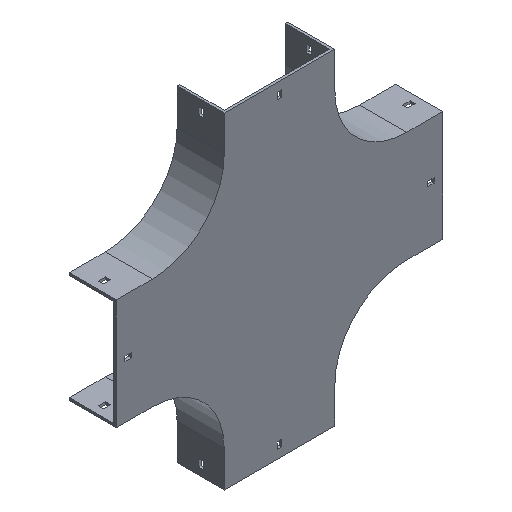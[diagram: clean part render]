
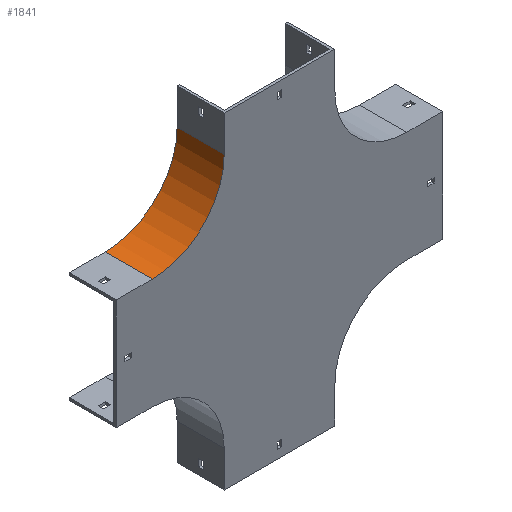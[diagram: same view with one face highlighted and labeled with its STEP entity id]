
A CAD part, isometric view. The second image highlights one B-rep face of the part: STEP entity #1841.
In plain terms, the highlighted cylindrical face has radius 100 mm (diameter 200 mm), a partial arc.
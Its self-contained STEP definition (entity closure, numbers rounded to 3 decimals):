
#44 = DIRECTION ( 'NONE',  ( 0., 0., -1. ) ) ;
#55 = DIRECTION ( 'NONE',  ( 0., -1., 0. ) ) ;
#79 = DIRECTION ( 'NONE',  ( 0., -1., 0. ) ) ;
#132 = CARTESIAN_POINT ( 'NONE',  ( -354., 65.5, -100. ) ) ;
#141 = CARTESIAN_POINT ( 'NONE',  ( -254., 0., 0. ) ) ;
#171 = CARTESIAN_POINT ( 'NONE',  ( -354., 65.5, -100. ) ) ;
#273 = CARTESIAN_POINT ( 'NONE',  ( -354., 0., 0. ) ) ;
#300 = DIRECTION ( 'NONE',  ( 0., -1., 0. ) ) ;
#457 = CARTESIAN_POINT ( 'NONE',  ( -354., 65.5, 0. ) ) ;
#659 = CIRCLE ( 'NONE', #2558, 100. ) ;
#759 = AXIS2_PLACEMENT_3D ( 'NONE', #1980, #79, #44 ) ;
#898 = DIRECTION ( 'NONE',  ( 0., 0., 1. ) ) ;
#934 = ORIENTED_EDGE ( 'NONE', *, *, #1812, .F. ) ;
#935 = EDGE_CURVE ( 'NONE', #1533, #2499, #1052, .T. ) ;
#956 = CARTESIAN_POINT ( 'NONE',  ( -354., 0., -100. ) ) ;
#1052 = LINE ( 'NONE', #1504, #2722 ) ;
#1124 = CYLINDRICAL_SURFACE ( 'NONE', #759, 100. ) ;
#1147 = EDGE_CURVE ( 'NONE', #2111, #2374, #1440, .T. ) ;
#1344 = FACE_OUTER_BOUND ( 'NONE', #1703, .T. ) ;
#1440 = LINE ( 'NONE', #171, #2726 ) ;
#1504 = CARTESIAN_POINT ( 'NONE',  ( -254., 65.5, 0. ) ) ;
#1533 = VERTEX_POINT ( 'NONE', #1786 ) ;
#1703 = EDGE_LOOP ( 'NONE', ( #2459, #1987, #934, #2202 ) ) ;
#1786 = CARTESIAN_POINT ( 'NONE',  ( -254., 65.5, 0. ) ) ;
#1812 = EDGE_CURVE ( 'NONE', #2111, #1533, #659, .T. ) ;
#1841 = ADVANCED_FACE ( 'NONE', ( #1344 ), #1124, .F. ) ;
#1912 = EDGE_CURVE ( 'NONE', #2374, #2499, #2337, .T. ) ;
#1975 = DIRECTION ( 'NONE',  ( 0., 0., 1. ) ) ;
#1980 = CARTESIAN_POINT ( 'NONE',  ( -354., 65.5, 0. ) ) ;
#1987 = ORIENTED_EDGE ( 'NONE', *, *, #935, .F. ) ;
#2111 = VERTEX_POINT ( 'NONE', #132 ) ;
#2202 = ORIENTED_EDGE ( 'NONE', *, *, #1147, .T. ) ;
#2337 = CIRCLE ( 'NONE', #2656, 100. ) ;
#2374 = VERTEX_POINT ( 'NONE', #956 ) ;
#2459 = ORIENTED_EDGE ( 'NONE', *, *, #1912, .T. ) ;
#2499 = VERTEX_POINT ( 'NONE', #141 ) ;
#2545 = DIRECTION ( 'NONE',  ( 0., -1., 0. ) ) ;
#2558 = AXIS2_PLACEMENT_3D ( 'NONE', #457, #300, #898 ) ;
#2656 = AXIS2_PLACEMENT_3D ( 'NONE', #273, #55, #1975 ) ;
#2722 = VECTOR ( 'NONE', #2741, 1000. ) ;
#2726 = VECTOR ( 'NONE', #2545, 1000. ) ;
#2741 = DIRECTION ( 'NONE',  ( 0., -1., 0. ) ) ;
